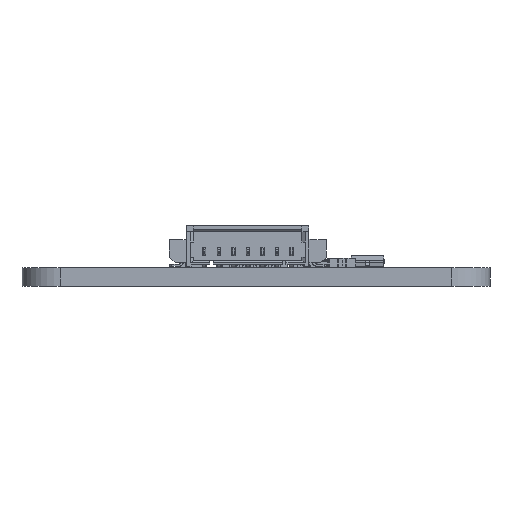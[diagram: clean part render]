
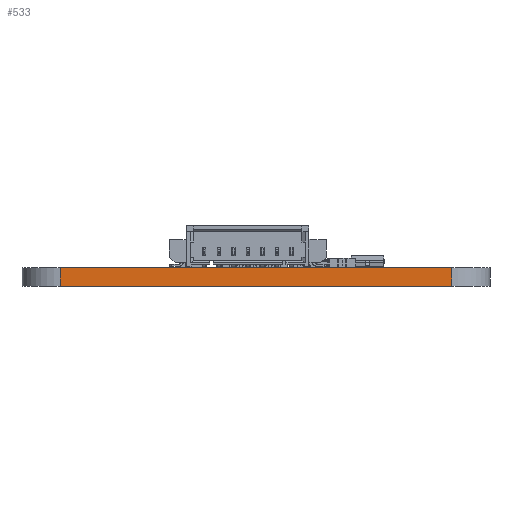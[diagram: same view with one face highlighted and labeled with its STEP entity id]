
A CAD part, left-side view. The second image highlights one B-rep face of the part: STEP entity #533.
In plain terms, the highlighted planar face has unit normal (-1, 0, 0).
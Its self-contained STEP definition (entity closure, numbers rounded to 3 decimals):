
#506 = VERTEX_POINT('',#507);
#507 = CARTESIAN_POINT('',(-113.272,27.94,
    1.6));
#514 = EDGE_CURVE('',#515,#506,#517,.T.);
#515 = VERTEX_POINT('',#516);
#516 = CARTESIAN_POINT('',(-113.272,27.94,0.));
#517 = LINE('',#518,#519);
#518 = CARTESIAN_POINT('',(-113.272,27.94,0.));
#519 = VECTOR('',#520,1.);
#520 = DIRECTION('',(0.,0.,1.));
#533 = ADVANCED_FACE('',(#534),#559,.T.);
#534 = FACE_BOUND('',#535,.T.);
#535 = EDGE_LOOP('',(#536,#537,#545,#553));
#536 = ORIENTED_EDGE('',*,*,#514,.T.);
#537 = ORIENTED_EDGE('',*,*,#538,.T.);
#538 = EDGE_CURVE('',#506,#539,#541,.T.);
#539 = VERTEX_POINT('',#540);
#540 = CARTESIAN_POINT('',(-113.285,61.595,
    1.6));
#541 = LINE('',#542,#543);
#542 = CARTESIAN_POINT('',(-113.272,27.94,
    1.6));
#543 = VECTOR('',#544,1.);
#544 = DIRECTION('',(0.,1.,0.));
#545 = ORIENTED_EDGE('',*,*,#546,.F.);
#546 = EDGE_CURVE('',#547,#539,#549,.T.);
#547 = VERTEX_POINT('',#548);
#548 = CARTESIAN_POINT('',(-113.285,61.595,0.));
#549 = LINE('',#550,#551);
#550 = CARTESIAN_POINT('',(-113.285,61.595,0.));
#551 = VECTOR('',#552,1.);
#552 = DIRECTION('',(0.,0.,1.));
#553 = ORIENTED_EDGE('',*,*,#554,.F.);
#554 = EDGE_CURVE('',#515,#547,#555,.T.);
#555 = LINE('',#556,#557);
#556 = CARTESIAN_POINT('',(-113.272,27.94,0.));
#557 = VECTOR('',#558,1.);
#558 = DIRECTION('',(0.,1.,0.));
#559 = PLANE('',#560);
#560 = AXIS2_PLACEMENT_3D('',#561,#562,#563);
#561 = CARTESIAN_POINT('',(-113.272,27.94,0.));
#562 = DIRECTION('',(-1.,0.,0.));
#563 = DIRECTION('',(0.,1.,0.));
